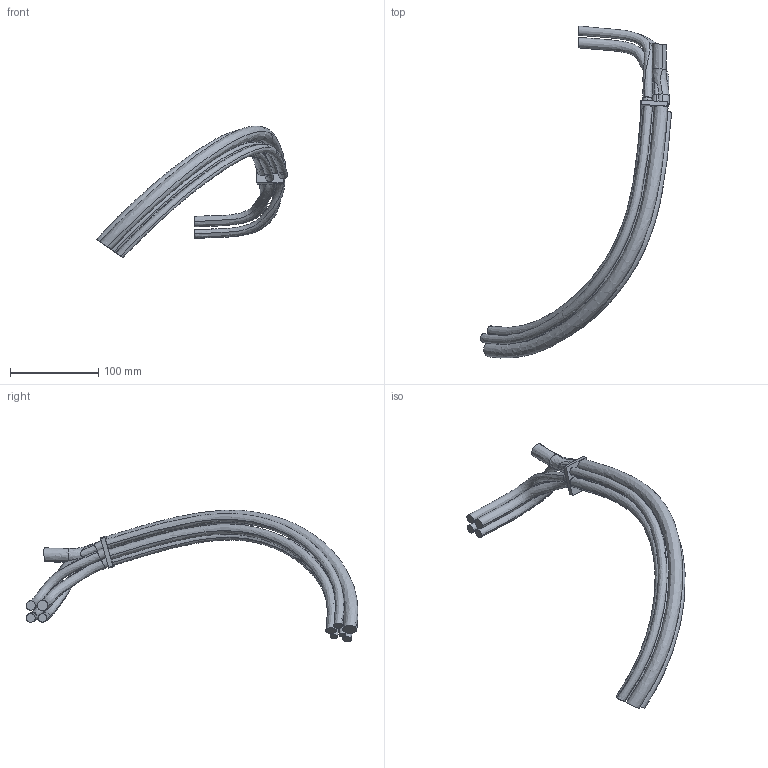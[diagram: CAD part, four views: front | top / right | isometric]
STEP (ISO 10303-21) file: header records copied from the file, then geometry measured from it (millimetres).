
FILE_DESCRIPTION (( 'STEP AP214' ), '1' );
FILE_NAME ('IRB4600_40-255_CABELS_LINK3_03.STEP', '2012-06-25T08:55:57', ( 'ABB' ), ( 'ABB' ), 'SwSTEP 2.0', 'SolidWorks 2010', '' );
FILE_SCHEMA (( 'AUTOMOTIVE_DESIGN' ));
Length unit declared in the file: millimetre
Products named in the file (1): IRB4600_40-255_CABELS_LINK3_03
Bounding box: 216.34 x 375.91 x 149.01 mm (x, y, z)
Volume: 295570.7 mm3; surface area: 105535.1 mm2
Topology: 1 solids, 1 shells, 58 faces, 142 edges, 92 vertices
Faces by surface type: bspline 28, plane 20, cylinder 10
Entity records: 5510 total; most frequent: CARTESIAN_POINT 3797, ORIENTED_EDGE 284, EDGE_CURVE 142, DIRECTION 126, VERTEX_POINT 92, EDGE_LOOP 64, UNCERTAINTY_MEASURE_WITH_UNIT 61, MECHANICAL_DESIGN_GEOMETRIC_PRESENTATION_REPRESENTATION 60
